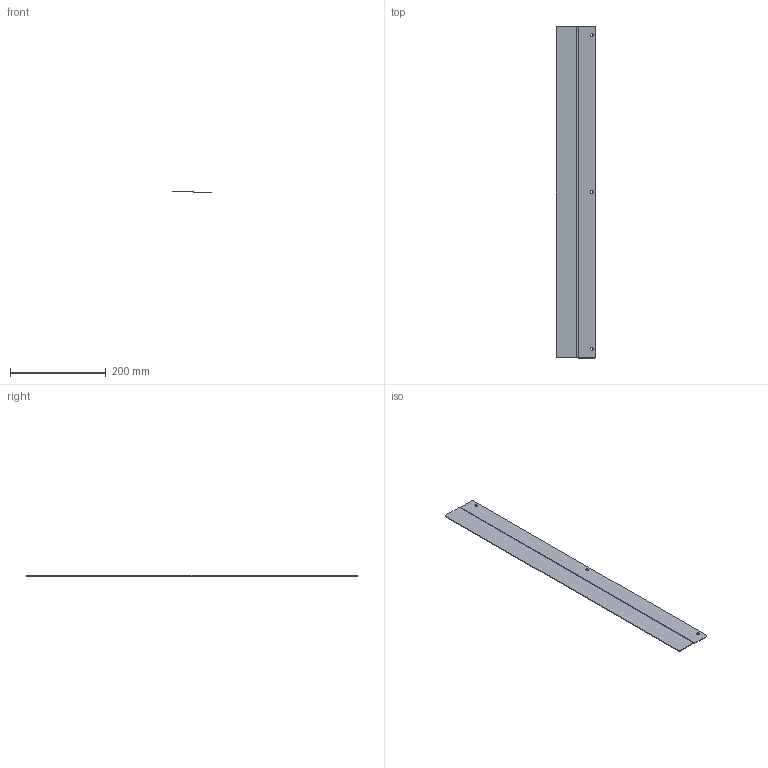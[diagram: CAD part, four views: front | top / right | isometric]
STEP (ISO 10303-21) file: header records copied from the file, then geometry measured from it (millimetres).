
FILE_DESCRIPTION( ( 'Unknown' ), '1' );
FILE_NAME( 'Q:/WEB DRAWINGS/STEP/CLCBC36.stp', 'Unknown', ( 'Unknown' ), ( 'Unknown' ), 'PSStep 15.0.49', 'Unknown', ' ' );
FILE_SCHEMA( ( 'AUTOMOTIVE_DESIGN { 1 0 10303 214 1 1 1 1 }' ) );
Length unit declared in the file: millimetre
Products named in the file (1): 1
Bounding box: 82.55 x 695.33 x 3.28 mm (x, y, z)
Volume: 83749.2 mm3; surface area: 118014.2 mm2
Topology: 1 solids, 1 shells, 19 faces, 54 edges, 37 vertices
Faces by surface type: cylinder 11, plane 8
Full cylindrical faces by diameter (mm): 5.563 x3
Entity records: 772 total; most frequent: DIRECTION 110, CARTESIAN_POINT 102, ORIENTED_EDGE 96, EDGE_CURVE 48, AXIS2_PLACEMENT_3D 42, VERTEX_POINT 34, EDGE_LOOP 28, LINE 26
